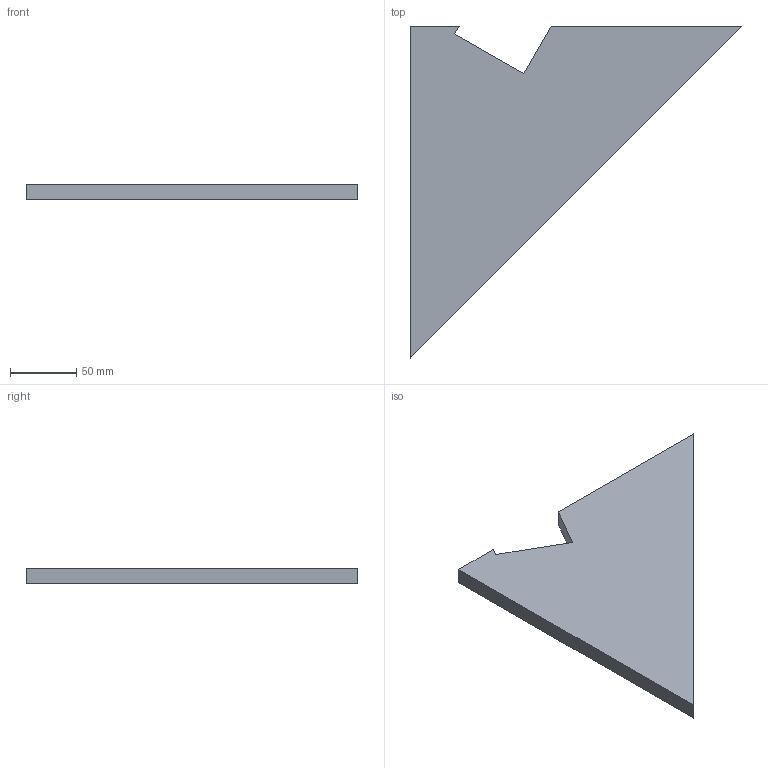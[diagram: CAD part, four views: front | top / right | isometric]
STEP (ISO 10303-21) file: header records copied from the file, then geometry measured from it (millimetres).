
FILE_DESCRIPTION(('Open CASCADE Model'),'2;1');
FILE_NAME('Open CASCADE Shape Model','2026-10-15T15:10:04',('Author'),( 'Open CASCADE'),'Open CASCADE STEP processor 8.0','Open CASCADE 8.0' ,'Unknown');
FILE_SCHEMA(('AUTOMOTIVE_DESIGN { 1 0 10303 214 1 1 1 1 }'));
Length unit declared in the file: millimetre
Products named in the file (1): U02_CARTELA_BRL-A-1_0_P05 62
Bounding box: 250 x 250 x 12 mm (x, y, z)
Volume: 357666.8 mm3; surface area: 70321.7 mm2
Topology: 1 solids, 1 shells, 9 faces, 21 edges, 14 vertices
Faces by surface type: plane 9
Entity records: 522 total; most frequent: CARTESIAN_POINT 103, DIRECTION 67, LINE 47, VECTOR 47, ORIENTED_EDGE 42, PCURVE 42, DEFINITIONAL_REPRESENTATION 42, EDGE_CURVE 21
